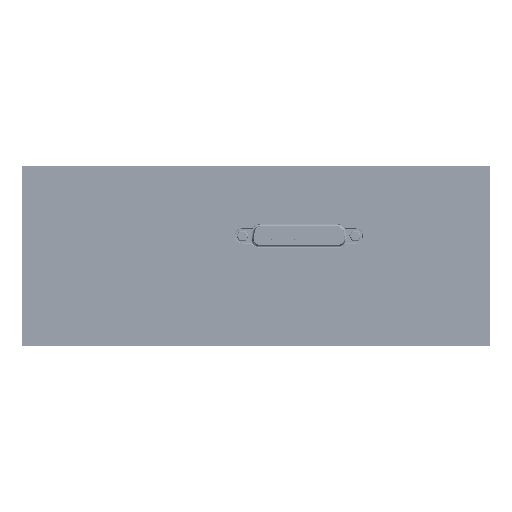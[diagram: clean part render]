
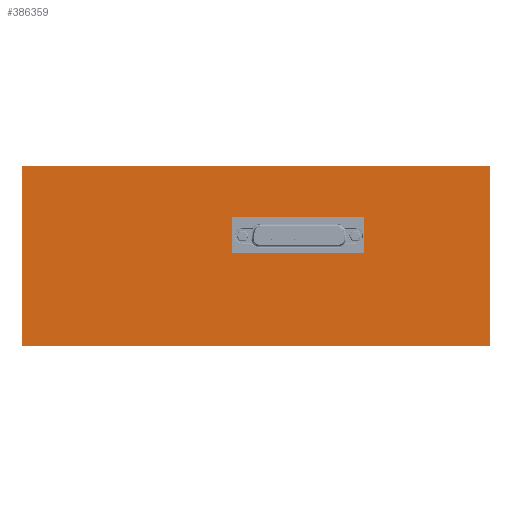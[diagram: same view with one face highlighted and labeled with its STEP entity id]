
A CAD part, top view. The second image highlights one B-rep face of the part: STEP entity #386359.
In plain terms, the highlighted planar face has unit normal (0, 0, 1) as drawn and (0, 0, -1) by its records, which use the part's own axes.
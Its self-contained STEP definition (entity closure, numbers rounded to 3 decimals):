
#386078=DIRECTION('',(0.,1.,0.));
#386079=VECTOR('',#386078,75.);
#386080=CARTESIAN_POINT('',(-97.5,-37.5,0.));
#386081=LINE('',#386080,#386079);
#386086=DIRECTION('',(1.,0.,0.));
#386087=VECTOR('',#386086,195.);
#386088=CARTESIAN_POINT('',(-97.5,37.5,0.));
#386089=LINE('',#386088,#386087);
#386094=DIRECTION('',(0.,-1.,0.));
#386095=VECTOR('',#386094,75.);
#386096=CARTESIAN_POINT('',(97.5,37.5,0.));
#386097=LINE('',#386096,#386095);
#386102=DIRECTION('',(-1.,0.,0.));
#386103=VECTOR('',#386102,195.);
#386104=CARTESIAN_POINT('',(97.5,-37.5,0.));
#386105=LINE('',#386104,#386103);
#386238=DIRECTION('',(-1.,0.,0.));
#386239=VECTOR('',#386238,55.);
#386240=CARTESIAN_POINT('',(10.,16.,0.));
#386241=LINE('',#386240,#386239);
#386246=DIRECTION('',(0.,-1.,0.));
#386247=VECTOR('',#386246,15.);
#386248=CARTESIAN_POINT('',(-45.,16.,0.));
#386249=LINE('',#386248,#386247);
#386254=DIRECTION('',(1.,0.,0.));
#386255=VECTOR('',#386254,55.);
#386256=CARTESIAN_POINT('',(-45.,1.,0.));
#386257=LINE('',#386256,#386255);
#386262=DIRECTION('',(0.,1.,0.));
#386263=VECTOR('',#386262,15.);
#386264=CARTESIAN_POINT('',(10.,1.,0.));
#386265=LINE('',#386264,#386263);
#386270=CARTESIAN_POINT('',(-97.5,-37.5,0.));
#386271=CARTESIAN_POINT('',(-97.5,37.5,0.));
#386272=VERTEX_POINT('',#386270);
#386273=VERTEX_POINT('',#386271);
#386274=CARTESIAN_POINT('',(97.5,-37.5,0.));
#386275=VERTEX_POINT('',#386274);
#386276=CARTESIAN_POINT('',(97.5,37.5,0.));
#386277=VERTEX_POINT('',#386276);
#386278=CARTESIAN_POINT('',(10.,16.,0.));
#386279=CARTESIAN_POINT('',(-45.,16.,0.));
#386280=VERTEX_POINT('',#386278);
#386281=VERTEX_POINT('',#386279);
#386282=CARTESIAN_POINT('',(10.,1.,0.));
#386283=VERTEX_POINT('',#386282);
#386284=CARTESIAN_POINT('',(-45.,1.,0.));
#386285=VERTEX_POINT('',#386284);
#386334=CARTESIAN_POINT('',(0.,0.,0.));
#386335=DIRECTION('',(0.,0.,1.));
#386336=DIRECTION('',(1.,0.,0.));
#386337=AXIS2_PLACEMENT_3D('',#386334,#386335,#386336);
#386338=PLANE('',#386337);
#386340=ORIENTED_EDGE('',*,*,#386339,.F.);
#386342=ORIENTED_EDGE('',*,*,#386341,.F.);
#386344=ORIENTED_EDGE('',*,*,#386343,.F.);
#386346=ORIENTED_EDGE('',*,*,#386345,.F.);
#386347=EDGE_LOOP('',(#386340,#386342,#386344,#386346));
#386348=FACE_OUTER_BOUND('',#386347,.F.);
#386350=ORIENTED_EDGE('',*,*,#386349,.F.);
#386352=ORIENTED_EDGE('',*,*,#386351,.F.);
#386354=ORIENTED_EDGE('',*,*,#386353,.F.);
#386356=ORIENTED_EDGE('',*,*,#386355,.F.);
#386357=EDGE_LOOP('',(#386350,#386352,#386354,#386356));
#386358=FACE_BOUND('',#386357,.F.);
#386359=ADVANCED_FACE('',(#386348,#386358),#386338,.F.);
#386339=EDGE_CURVE('',#386272,#386273,#386081,.T.);
#386341=EDGE_CURVE('',#386275,#386272,#386105,.T.);
#386343=EDGE_CURVE('',#386277,#386275,#386097,.T.);
#386345=EDGE_CURVE('',#386273,#386277,#386089,.T.);
#386349=EDGE_CURVE('',#386280,#386281,#386241,.T.);
#386351=EDGE_CURVE('',#386283,#386280,#386265,.T.);
#386353=EDGE_CURVE('',#386285,#386283,#386257,.T.);
#386355=EDGE_CURVE('',#386281,#386285,#386249,.T.);
